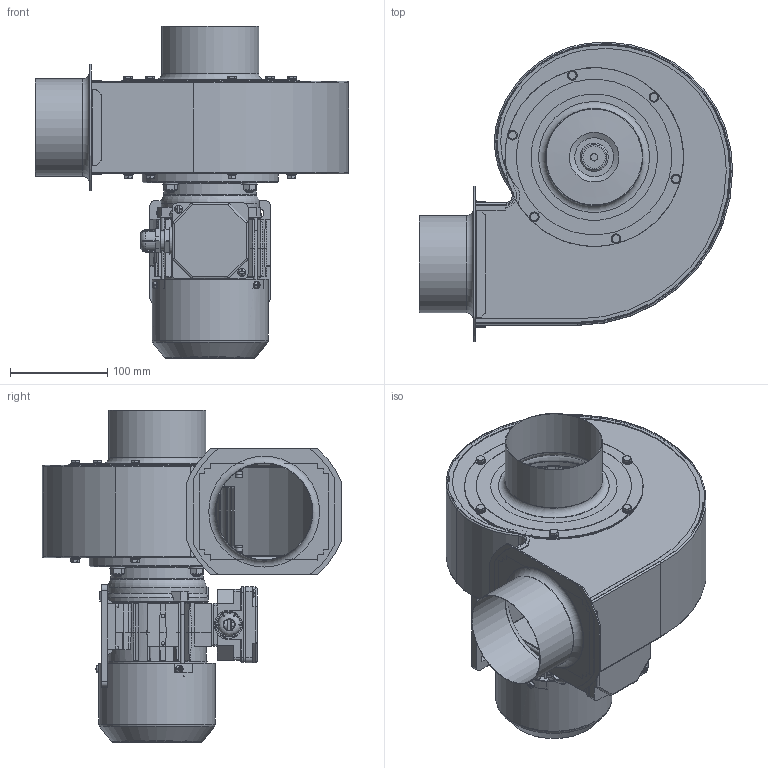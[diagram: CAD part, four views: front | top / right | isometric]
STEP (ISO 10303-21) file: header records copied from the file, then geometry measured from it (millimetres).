
FILE_DESCRIPTION(/* description */ (''),/* implementation_level */ '2;1');
FILE_NAME(/* name */ 'C:\Users\caguon\Desktop\Part2.stp',/* time_stamp */ '2020-08-18T13:50:31+02:00',/* author */ ('caguon'),/* organization */ (''),/* preprocessor_version */ 'ST-DEVELOPER v16.13',/* originating_system */ 'Autodesk Inventor 2018',/* authorisation */ '');
FILE_SCHEMA (('AUTOMOTIVE_DESIGN { 1 0 10303 214 3 1 1 }'));
Products named in the file (1): Part2
Bounding box: 322.12 x 308.24 x 341.5 mm (x, y, z)
Volume: 1145072.8 mm3; surface area: 1149775.3 mm2
Topology: 112 solids, 112 shells, 3345 faces, 8526 edges, 5449 vertices
Faces by surface type: plane 1834, cylinder 948, cone 401, torus 135, sphere 14, bspline 13
Full cylindrical faces by diameter (mm): 2 x4, 2.4 x2, 3.242 x1, 3.3 x3, 3.5 x2, 3.621 x1, 3.7 x14, 4 x15, 4.134 x4, 4.2 x1, 4.5 x5, 4.567 x16, 4.8 x4, 5 x32, 5.3 x12, 5.6 x12, 5.8 x4, 5.9 x1, 6 x18, 6.5 x6, 6.647 x5, 6.7 x16, 6.9 x12, 7 x3, 7.1 x12, 7.323 x4, 8 x10, 8.4 x4, 9 x6, 10 x16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
Entity records: 104226 total; most frequent: CARTESIAN_POINT 21422, DIRECTION 16774, ORIENTED_EDGE 15660, EDGE_CURVE 7830, AXIS2_PLACEMENT_3D 6377, VERTEX_POINT 5345, EDGE_LOOP 4443, LINE 4020
